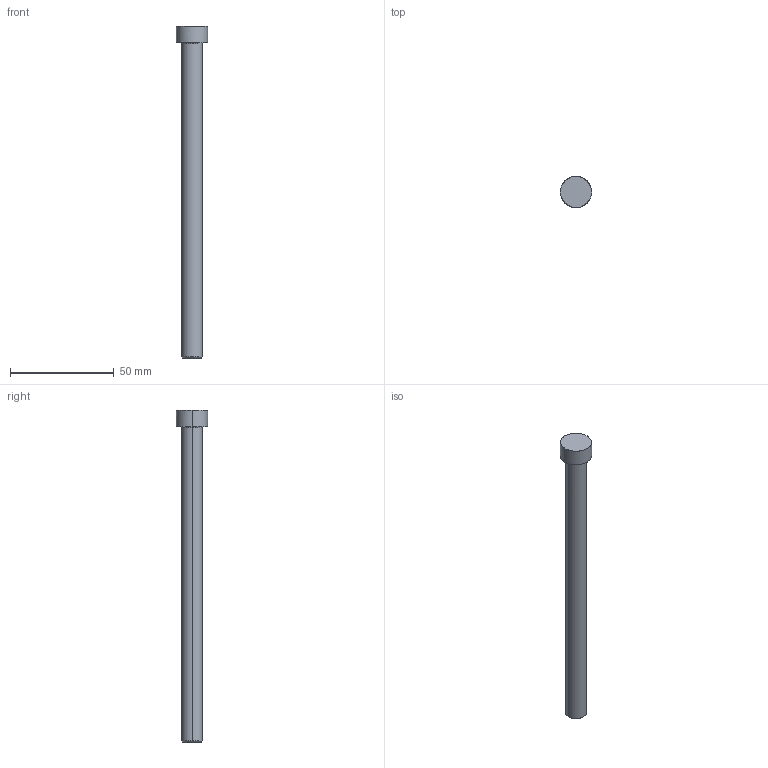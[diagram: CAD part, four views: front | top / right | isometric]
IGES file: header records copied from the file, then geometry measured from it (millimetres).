
Global section: file name: E:\UnigraphicsGraphicData\MISUMI_PRESS-PARTS\IGES\3d_hcup10-160_01335_r00.igs; native system: NX V5.0; preprocessor: UGS NX IGES V5.0; author: MISUMI; date: 20110105.160933; units: millimetre
Bounding box: 15 x 15 x 160 mm (x, y, z)
Surface area: 5490.5 mm2 (no closed solid volume)
Topology: 0 solids, 0 shells, 11 faces, 64 edges, 64 vertices
Faces by surface type: bspline 11
